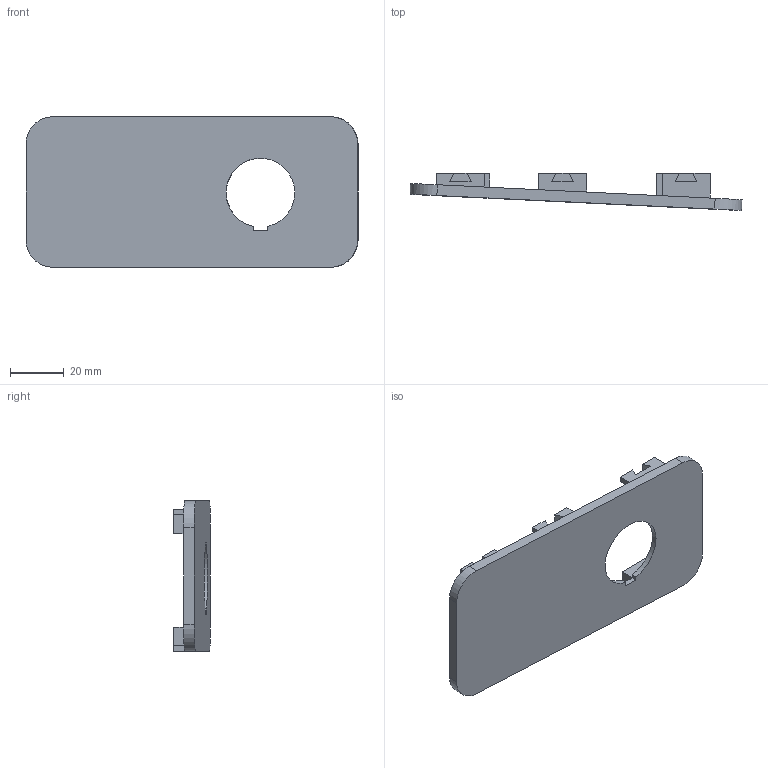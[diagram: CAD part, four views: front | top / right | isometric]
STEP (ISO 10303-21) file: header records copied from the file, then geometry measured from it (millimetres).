
FILE_DESCRIPTION(/* description */ (''),/* implementation_level */ '2;1');
FILE_NAME(/* name */ 'Stock 12V cut.step',/* time_stamp */ '2025-11-18T18:52:12-05:00',/* author */ (''),/* organization */ (''),/* preprocessor_version */ 'ST-DEVELOPER v20.1',/* originating_system */ 'Autodesk Translation Framework v14.21.0.0',/* authorisation */ '');
FILE_SCHEMA (('AUTOMOTIVE_DESIGN { 1 0 10303 214 3 1 1 }'));
Length unit declared in the file: millimetre
Products named in the file (1): Rav4 Trunk Panel
Bounding box: 123.45 x 13.74 x 56 mm (x, y, z)
Volume: 28371.6 mm3; surface area: 16955 mm2
Topology: 1 solids, 1 shells, 91 faces, 255 edges, 170 vertices
Faces by surface type: plane 85, cylinder 6
Full cylindrical faces by diameter (mm): 33 x1
Entity records: 2918 total; most frequent: CARTESIAN_POINT 517, ORIENTED_EDGE 510, DIRECTION 451, EDGE_CURVE 255, LINE 243, VECTOR 243, VERTEX_POINT 170, AXIS2_PLACEMENT_3D 104
